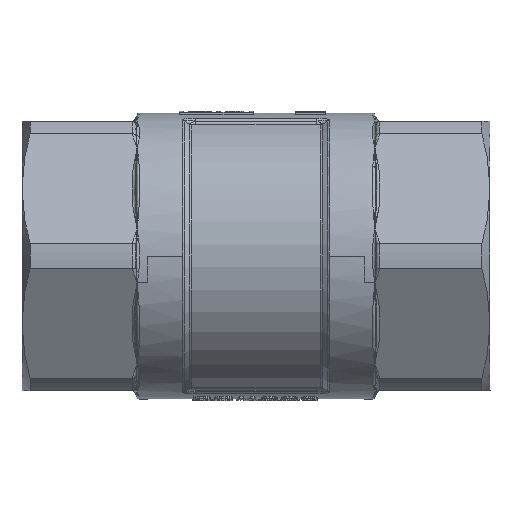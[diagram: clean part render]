
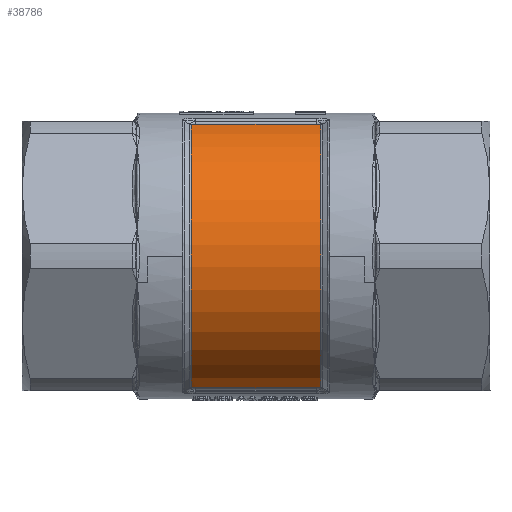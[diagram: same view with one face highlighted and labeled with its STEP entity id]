
A CAD part, front view. The second image highlights one B-rep face of the part: STEP entity #38786.
In plain terms, the highlighted cylindrical face has radius 34.5 mm (diameter 69 mm), a partial arc.
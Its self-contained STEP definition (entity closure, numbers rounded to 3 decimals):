
#12739=CARTESIAN_POINT('',(-16.032,0.,0.));
#12740=DIRECTION('',(-1.,0.,0.));
#12741=DIRECTION('',(0.,-0.33,-0.944));
#12742=AXIS2_PLACEMENT_3D('',#12739,#12740,#12741);
#12754=CARTESIAN_POINT('',(16.032,-11.383,
-32.568));
#12755=CARTESIAN_POINT('',(16.032,-11.349,
-32.58));
#12756=CARTESIAN_POINT('',(16.024,-11.281,
-32.604));
#12757=CARTESIAN_POINT('',(15.984,-11.176,
-32.64));
#12758=CARTESIAN_POINT('',(15.907,-11.074,
-32.674));
#12759=CARTESIAN_POINT('',(15.79,-10.984,
-32.705));
#12760=CARTESIAN_POINT('',(15.638,-10.91,
-32.729));
#12761=CARTESIAN_POINT('',(15.455,-10.857,
-32.747));
#12762=CARTESIAN_POINT('',(15.243,-10.824,
-32.758));
#12763=CARTESIAN_POINT('',(15.083,-10.816,
-32.761));
#12764=CARTESIAN_POINT('',(14.999,-10.816,
-32.761));
#12782=CARTESIAN_POINT('',(16.032,0.,0.));
#12783=DIRECTION('',(1.,0.,0.));
#12784=DIRECTION('',(0.,-0.33,0.944));
#12785=AXIS2_PLACEMENT_3D('',#12782,#12783,#12784);
#12797=CARTESIAN_POINT('',(14.999,-10.816,
32.761));
#12798=CARTESIAN_POINT('',(15.083,-10.816,
32.761));
#12799=CARTESIAN_POINT('',(15.243,-10.824,
32.758));
#12800=CARTESIAN_POINT('',(15.455,-10.857,
32.747));
#12801=CARTESIAN_POINT('',(15.638,-10.91,
32.729));
#12802=CARTESIAN_POINT('',(15.79,-10.984,
32.705));
#12803=CARTESIAN_POINT('',(15.907,-11.074,
32.674));
#12804=CARTESIAN_POINT('',(15.984,-11.176,
32.64));
#12805=CARTESIAN_POINT('',(16.024,-11.281,
32.604));
#12806=CARTESIAN_POINT('',(16.032,-11.349,
32.58));
#12807=CARTESIAN_POINT('',(16.032,-11.383,
32.568));
#12825=DIRECTION('',(1.,0.,0.));
#12826=VECTOR('',#12825,29.998);
#12827=CARTESIAN_POINT('',(-14.999,-10.816,
32.761));
#12828=LINE('',#12827,#12826);
#12838=CARTESIAN_POINT('',(-16.032,-11.383,
32.568));
#12839=CARTESIAN_POINT('',(-16.032,-11.349,
32.58));
#12840=CARTESIAN_POINT('',(-16.024,-11.281,
32.604));
#12841=CARTESIAN_POINT('',(-15.984,-11.176,
32.64));
#12842=CARTESIAN_POINT('',(-15.907,-11.074,
32.674));
#12843=CARTESIAN_POINT('',(-15.79,-10.984,
32.705));
#12844=CARTESIAN_POINT('',(-15.638,-10.91,
32.729));
#12845=CARTESIAN_POINT('',(-15.455,-10.857,
32.747));
#12846=CARTESIAN_POINT('',(-15.243,-10.824,
32.758));
#12847=CARTESIAN_POINT('',(-15.083,-10.816,
32.761));
#12848=CARTESIAN_POINT('',(-14.999,-10.816,
32.761));
#12866=DIRECTION('',(-1.,0.,0.));
#12867=VECTOR('',#12866,29.998);
#12868=CARTESIAN_POINT('',(14.999,-10.816,
-32.761));
#12869=LINE('',#12868,#12867);
#12879=CARTESIAN_POINT('',(-14.999,-10.816,
-32.761));
#12880=CARTESIAN_POINT('',(-15.083,-10.816,
-32.761));
#12881=CARTESIAN_POINT('',(-15.243,-10.824,
-32.758));
#12882=CARTESIAN_POINT('',(-15.455,-10.857,
-32.747));
#12883=CARTESIAN_POINT('',(-15.638,-10.91,
-32.729));
#12884=CARTESIAN_POINT('',(-15.79,-10.984,
-32.705));
#12885=CARTESIAN_POINT('',(-15.907,-11.074,
-32.674));
#12886=CARTESIAN_POINT('',(-15.984,-11.176,
-32.64));
#12887=CARTESIAN_POINT('',(-16.024,-11.281,
-32.604));
#12888=CARTESIAN_POINT('',(-16.032,-11.349,
-32.58));
#12889=CARTESIAN_POINT('',(-16.032,-11.383,
-32.568));
#22097=VERTEX_POINT('',#12754);
#22098=VERTEX_POINT('',#12764);
#22101=CARTESIAN_POINT('',(-14.999,-10.816,
-32.761));
#22102=VERTEX_POINT('',#22101);
#22105=VERTEX_POINT('',#12889);
#22107=CARTESIAN_POINT('',(-16.032,-11.383,
32.568));
#22108=VERTEX_POINT('',#22107);
#22111=VERTEX_POINT('',#12848);
#22113=CARTESIAN_POINT('',(14.999,-10.816,
32.761));
#22114=VERTEX_POINT('',#22113);
#22117=VERTEX_POINT('',#12807);
#38764=CARTESIAN_POINT('',(-30.8,0.,0.));
#38765=DIRECTION('',(1.,0.,0.));
#38766=DIRECTION('',(0.,-1.,0.));
#38767=AXIS2_PLACEMENT_3D('',#38764,#38765,#38766);
#38768=CYLINDRICAL_SURFACE('',#38767,34.5);
#38770=ORIENTED_EDGE('',*,*,#38769,.T.);
#38772=ORIENTED_EDGE('',*,*,#38771,.T.);
#38774=ORIENTED_EDGE('',*,*,#38773,.T.);
#38775=ORIENTED_EDGE('',*,*,#38754,.T.);
#38777=ORIENTED_EDGE('',*,*,#38776,.T.);
#38779=ORIENTED_EDGE('',*,*,#38778,.T.);
#38781=ORIENTED_EDGE('',*,*,#38780,.T.);
#38783=ORIENTED_EDGE('',*,*,#38782,.T.);
#38784=EDGE_LOOP('',(#38770,#38772,#38774,#38775,#38777,#38779,#38781,#38783));
#38785=FACE_OUTER_BOUND('',#38784,.F.);
#12743=CIRCLE('',#12742,34.5);
#12765=B_SPLINE_CURVE_WITH_KNOTS('',3,(#12754,#12755,#12756,#12757,#12758,
#12759,#12760,#12761,#12762,#12763,#12764),.UNSPECIFIED.,.F.,.F.,(4,1,1,1,1,1,1,
1,4),(0.,0.125,0.25,0.375,0.5,0.625,0.75,0.875,1.),
.UNSPECIFIED.);
#12786=CIRCLE('',#12785,34.5);
#12808=B_SPLINE_CURVE_WITH_KNOTS('',3,(#12797,#12798,#12799,#12800,#12801,
#12802,#12803,#12804,#12805,#12806,#12807),.UNSPECIFIED.,.F.,.F.,(4,1,1,1,1,1,1,
1,4),(0.,0.125,0.25,0.375,0.5,0.625,0.75,0.875,1.),
.UNSPECIFIED.);
#12849=B_SPLINE_CURVE_WITH_KNOTS('',3,(#12838,#12839,#12840,#12841,#12842,
#12843,#12844,#12845,#12846,#12847,#12848),.UNSPECIFIED.,.F.,.F.,(4,1,1,1,1,1,1,
1,4),(0.,0.125,0.25,0.375,0.5,0.625,0.75,0.875,1.),
.UNSPECIFIED.);
#12890=B_SPLINE_CURVE_WITH_KNOTS('',3,(#12879,#12880,#12881,#12882,#12883,
#12884,#12885,#12886,#12887,#12888,#12889),.UNSPECIFIED.,.F.,.F.,(4,1,1,1,1,1,1,
1,4),(0.,0.125,0.25,0.375,0.5,0.625,0.75,0.875,1.),
.UNSPECIFIED.);
#38754=EDGE_CURVE('',#22105,#22108,#12743,.T.);
#38769=EDGE_CURVE('',#22097,#22098,#12765,.T.);
#38771=EDGE_CURVE('',#22098,#22102,#12869,.T.);
#38773=EDGE_CURVE('',#22102,#22105,#12890,.T.);
#38776=EDGE_CURVE('',#22108,#22111,#12849,.T.);
#38778=EDGE_CURVE('',#22111,#22114,#12828,.T.);
#38780=EDGE_CURVE('',#22114,#22117,#12808,.T.);
#38782=EDGE_CURVE('',#22117,#22097,#12786,.T.);
#38786=ADVANCED_FACE('',(#38785),#38768,.T.);
